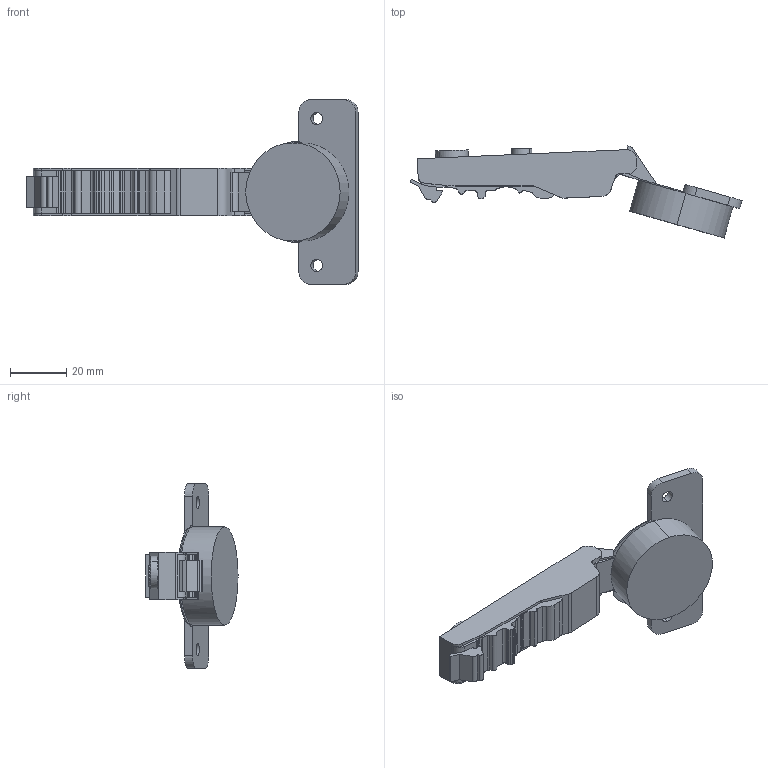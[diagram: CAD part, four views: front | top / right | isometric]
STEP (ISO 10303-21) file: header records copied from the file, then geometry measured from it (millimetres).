
FILE_DESCRIPTION (( 'STEP AP203' ), '1' );
FILE_NAME ('C82A676FA-DTC 3D open.STEP', '2024-09-06T00:53:26', ( '微软用户' ), ( '微软中国' ), 'SwSTEP 2.0', 'SolidWorks 2021', '' );
FILE_SCHEMA (( 'CONFIG_CONTROL_DESIGN' ));
Length unit declared in the file: millimetre
Products named in the file (1): C82A676FA-DTC 3D open
Bounding box: 117.73 x 32.66 x 65.56 mm (x, y, z)
Volume: 33350.6 mm3; surface area: 11139.1 mm2
Topology: 1 solids, 1 shells, 149 faces, 431 edges, 286 vertices
Faces by surface type: cylinder 76, plane 73
Entity records: 5035 total; most frequent: CARTESIAN_POINT 900, DIRECTION 871, ORIENTED_EDGE 862, EDGE_CURVE 431, AXIS2_PLACEMENT_3D 301, VERTEX_POINT 286, LINE 269, VECTOR 269
